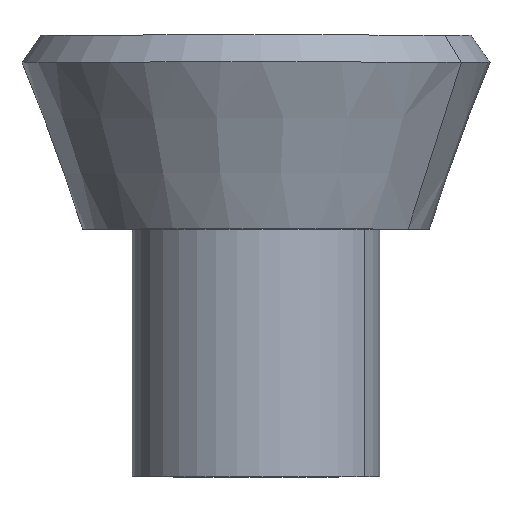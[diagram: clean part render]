
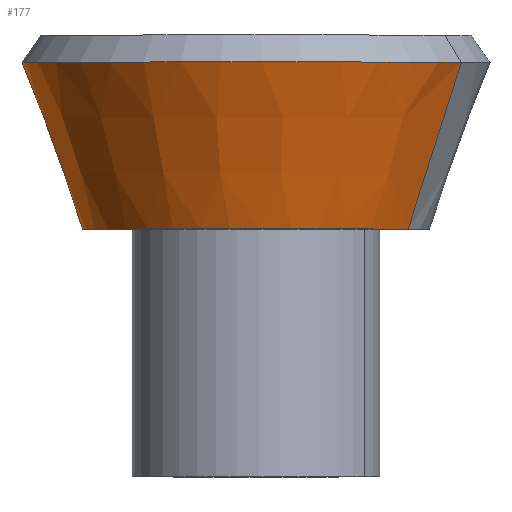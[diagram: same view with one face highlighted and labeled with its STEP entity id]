
A CAD part, top view. The second image highlights one B-rep face of the part: STEP entity #177.
In plain terms, the highlighted conical face has half-angle 20 degrees and reference radius 105 mm.
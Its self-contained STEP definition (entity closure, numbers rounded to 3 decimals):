
#114=CARTESIAN_POINT('Axis2P3D Location',(0.,0.,0.)) ;
#118=CARTESIAN_POINT('Vertex',(92.146,0.,50.34)) ;
#120=CARTESIAN_POINT('Vertex',(-92.146,0.,-50.34)) ;
#147=CARTESIAN_POINT('Axis2P3D Location',(0.,0.,0.)) ;
#152=CARTESIAN_POINT('Line Origine',(108.289,50.539,59.159)) ;
#156=CARTESIAN_POINT('Vertex',(124.432,101.079,67.978)) ;
#159=CARTESIAN_POINT('Axis2P3D Location',(0.,101.079,0.)) ;
#163=CARTESIAN_POINT('Vertex',(-124.432,101.079,-67.978)) ;
#166=CARTESIAN_POINT('Line Origine',(-108.289,50.539,-59.159)) ;
#115=DIRECTION('Axis2P3D Direction',(0.,-1.,0.)) ;
#148=DIRECTION('Axis2P3D Direction',(-0.,1.,-0.)) ;
#149=DIRECTION('Axis2P3D XDirection',(0.878,0.,0.479)) ;
#153=DIRECTION('Vector Direction',(0.3,0.94,0.164)) ;
#160=DIRECTION('Axis2P3D Direction',(0.,1.,-0.)) ;
#167=DIRECTION('Vector Direction',(-0.3,0.94,-0.164)) ;
#116=AXIS2_PLACEMENT_3D('Circle Axis2P3D',#114,#115,$) ;
#150=AXIS2_PLACEMENT_3D('Cone Axis2P3D',#147,#148,#149) ;
#161=AXIS2_PLACEMENT_3D('Circle Axis2P3D',#159,#160,$) ;
#172=ORIENTED_EDGE('',*,*,#122,.F.) ;
#173=ORIENTED_EDGE('',*,*,#158,.T.) ;
#174=ORIENTED_EDGE('',*,*,#165,.T.) ;
#175=ORIENTED_EDGE('',*,*,#170,.F.) ;
#154=VECTOR('Line Direction',#153,1.) ;
#168=VECTOR('Line Direction',#167,1.) ;
#177=ADVANCED_FACE('PartBody',(#176),#151,.T.) ;
#117=CIRCLE('generated circle',#116,105.) ;
#162=CIRCLE('generated circle',#161,141.79) ;
#151=CONICAL_SURFACE('Cone',#150,105.,0.349) ;
#122=EDGE_CURVE('',#119,#121,#117,.T.) ;
#158=EDGE_CURVE('',#119,#157,#155,.T.) ;
#165=EDGE_CURVE('',#157,#164,#162,.F.) ;
#170=EDGE_CURVE('',#121,#164,#169,.T.) ;
#171=EDGE_LOOP('',(#172,#173,#174,#175)) ;
#176=FACE_OUTER_BOUND('',#171,.T.) ;
#155=LINE('Line',#152,#154) ;
#169=LINE('Line',#166,#168) ;
#119=VERTEX_POINT('',#118) ;
#121=VERTEX_POINT('',#120) ;
#157=VERTEX_POINT('',#156) ;
#164=VERTEX_POINT('',#163) ;
